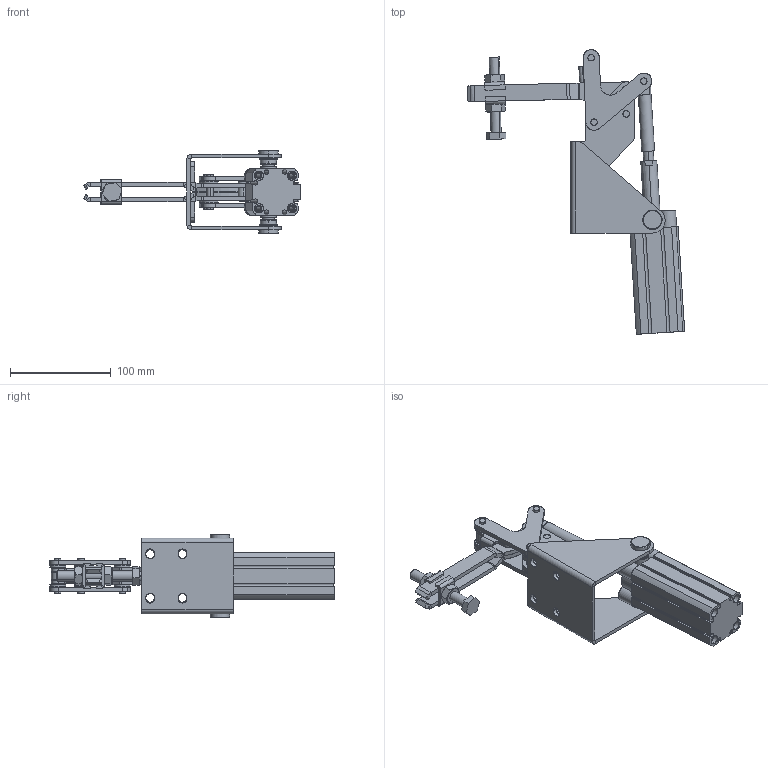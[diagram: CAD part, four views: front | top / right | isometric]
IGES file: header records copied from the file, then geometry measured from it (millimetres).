
Start section: SolidWorks IGES file using analytic representation for surfaces
Global section: file name: C:\Projetos\Grampos\KF-311 P\KF-311 DB P\KF-311 DB P.IGS; native system: SolidWorks 2013; preprocessor: SolidWorks 2013; author: Ricardo; date: 140828.163153; units: millimetre
Bounding box: 215.57 x 282.27 x 83 mm (x, y, z)
Surface area: 174596.9 mm2 (no closed solid volume)
Topology: 0 solids, 0 shells, 800 faces, 13136 edges, 13122 vertices
Faces by surface type: revolution 467, bspline 333
